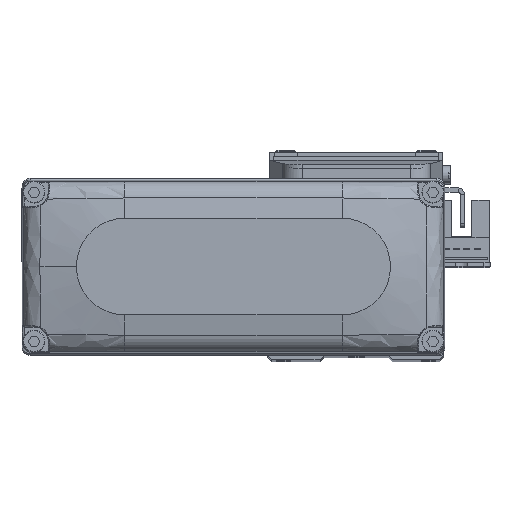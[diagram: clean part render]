
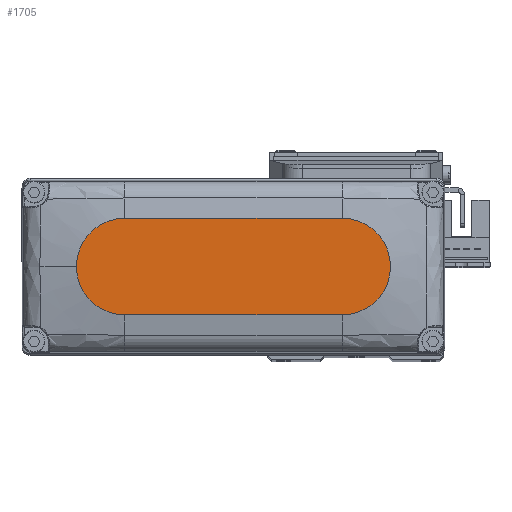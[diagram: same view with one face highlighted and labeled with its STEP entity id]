
A CAD part, top view. The second image highlights one B-rep face of the part: STEP entity #1705.
In plain terms, the highlighted planar face has unit normal (0, 0, 1).
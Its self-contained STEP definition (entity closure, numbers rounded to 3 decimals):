
#1705 = ADVANCED_FACE ( 'NONE', ( #50968 ), #74955, .T. ) ;
#1908 = EDGE_CURVE ( 'NONE', #74937, #75253, #46696, .T. ) ;
#6755 = CARTESIAN_POINT ( 'NONE',  ( 39., 0., 25. ) ) ;
#6798 = CARTESIAN_POINT ( 'NONE',  ( 27., 0., 25. ) ) ;
#7532 = DIRECTION ( 'NONE',  ( 1., 0., 0. ) ) ;
#7864 = CIRCLE ( 'NONE', #51802, 12. ) ;
#8452 = CARTESIAN_POINT ( 'NONE',  ( -27., -12., 25. ) ) ;
#11215 = LINE ( 'NONE', #35199, #34096 ) ;
#12157 = VERTEX_POINT ( 'NONE', #38780 ) ;
#15603 = DIRECTION ( 'NONE',  ( 0., 0., 1. ) ) ;
#17365 = ORIENTED_EDGE ( 'NONE', *, *, #49862, .T. ) ;
#17408 = CARTESIAN_POINT ( 'NONE',  ( -27., -12., 25. ) ) ;
#20938 = CIRCLE ( 'NONE', #64868, 12. ) ;
#21092 = CARTESIAN_POINT ( 'NONE',  ( 0., 0., 25. ) ) ;
#22547 = EDGE_CURVE ( 'NONE', #75253, #73026, #11215, .T. ) ;
#22862 = AXIS2_PLACEMENT_3D ( 'NONE', #6798, #30775, #54761 ) ;
#26407 = AXIS2_PLACEMENT_3D ( 'NONE', #21092, #45042, #69045 ) ;
#29412 = ORIENTED_EDGE ( 'NONE', *, *, #22547, .T. ) ;
#30775 = DIRECTION ( 'NONE',  ( 0., 0., 1. ) ) ;
#30952 = EDGE_CURVE ( 'NONE', #73026, #57111, #20938, .T. ) ;
#32434 = DIRECTION ( 'NONE',  ( 1., 0., 0. ) ) ;
#34096 = VECTOR ( 'NONE', #59161, 1000. ) ;
#35199 = CARTESIAN_POINT ( 'NONE',  ( -27., 12., 25. ) ) ;
#37427 = CARTESIAN_POINT ( 'NONE',  ( 27., 0., 25. ) ) ;
#38780 = CARTESIAN_POINT ( 'NONE',  ( 27., -12., 25. ) ) ;
#39581 = DIRECTION ( 'NONE',  ( 1., 0., 0. ) ) ;
#45042 = DIRECTION ( 'NONE',  ( 0., 0., 1. ) ) ;
#46696 = CIRCLE ( 'NONE', #22862, 12. ) ;
#47154 = CARTESIAN_POINT ( 'NONE',  ( 27., 12., 25. ) ) ;
#49862 = EDGE_CURVE ( 'NONE', #57111, #12157, #62315, .T. ) ;
#50968 = FACE_OUTER_BOUND ( 'NONE', #65615, .T. ) ;
#51802 = AXIS2_PLACEMENT_3D ( 'NONE', #37427, #61405, #7532 ) ;
#53490 = ORIENTED_EDGE ( 'NONE', *, *, #58521, .T. ) ;
#53830 = ORIENTED_EDGE ( 'NONE', *, *, #30952, .T. ) ;
#54752 = ORIENTED_EDGE ( 'NONE', *, *, #1908, .T. ) ;
#54761 = DIRECTION ( 'NONE',  ( 1., 0., 0. ) ) ;
#57111 = VERTEX_POINT ( 'NONE', #17408 ) ;
#58521 = EDGE_CURVE ( 'NONE', #12157, #74937, #7864, .T. ) ;
#59161 = DIRECTION ( 'NONE',  ( -1., 0., 0. ) ) ;
#61405 = DIRECTION ( 'NONE',  ( 0., 0., 1. ) ) ;
#62315 = LINE ( 'NONE', #8452, #66087 ) ;
#64868 = AXIS2_PLACEMENT_3D ( 'NONE', #69480, #15603, #39581 ) ;
#65615 = EDGE_LOOP ( 'NONE', ( #29412, #53830, #17365, #53490, #54752 ) ) ;
#66087 = VECTOR ( 'NONE', #32434, 1000. ) ;
#69045 = DIRECTION ( 'NONE',  ( 1., 0., 0. ) ) ;
#69480 = CARTESIAN_POINT ( 'NONE',  ( -27., 0., 25. ) ) ;
#73026 = VERTEX_POINT ( 'NONE', #75283 ) ;
#74937 = VERTEX_POINT ( 'NONE', #6755 ) ;
#74955 = PLANE ( 'NONE',  #26407 ) ;
#75253 = VERTEX_POINT ( 'NONE', #47154 ) ;
#75283 = CARTESIAN_POINT ( 'NONE',  ( -27., 12., 25. ) ) ;
